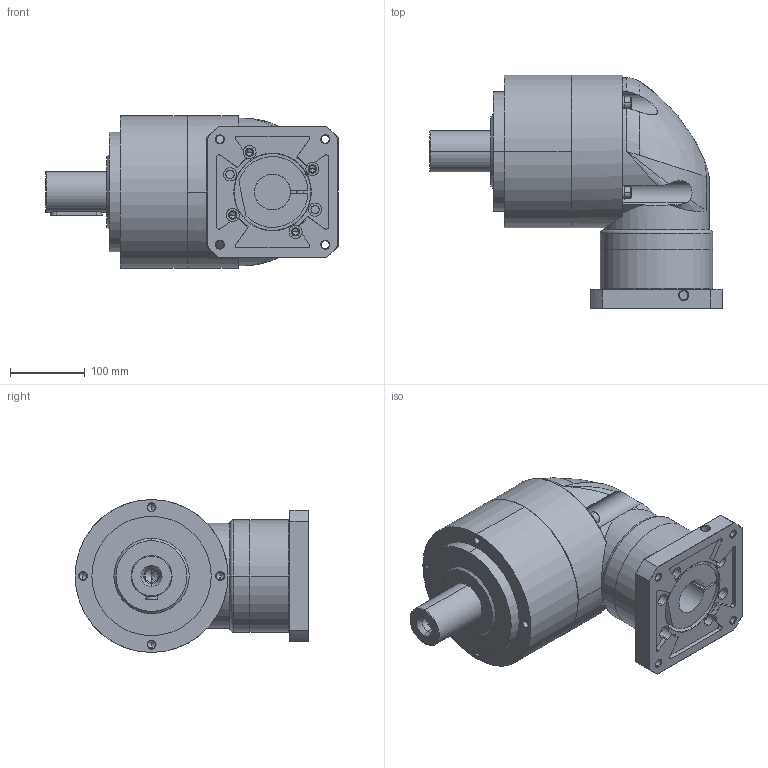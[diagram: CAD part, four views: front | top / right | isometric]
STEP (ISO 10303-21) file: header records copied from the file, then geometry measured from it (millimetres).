
FILE_DESCRIPTION((''),'2;1');
FILE_NAME('AER2051-P0403600401_ASM','2009-12-02T',('d00080'),(''),'PRO/ENGINEER BY PARAMETRIC TECHNOLOGY CORPORATION, 2008170','PRO/ENGINEER BY PARAMETRIC TECHNOLOGY CORPORATION, 2008170','');
FILE_SCHEMA(('CONFIG_CONTROL_DESIGN'));
Length unit declared in the file: millimetre
Products named in the file (8): AE205-1; PD160001; 233100006; 220100916; HOUSING-SET-6_ASM; P1305600001; P0403600401; AER2051-P0403600401_ASM
Assembly tree (13 placements, depth 3):
  AER2051-P0403600401_ASM
    AE205-1
    HOUSING-SET-6_ASM
      PD160001
      233100006  x4
      220100916  x4
    P1305600001
    P0403600401
Bounding box: 392 x 313.5 x 205 mm (x, y, z)
Volume: 9506335.2 mm3; surface area: 574493.5 mm2
Topology: 12 solids, 34 shells, 553 faces, 1311 edges, 809 vertices
Faces by surface type: cylinder 248, plane 164, cone 96, torus 27, bspline 18
Entity records: 14201 total; most frequent: CARTESIAN_POINT 3512, DIRECTION 2382, ORIENTED_EDGE 1994, EDGE_CURVE 1041, AXIS2_PLACEMENT_3D 987, VERTEX_POINT 671, EDGE_LOOP 534, CIRCLE 528
